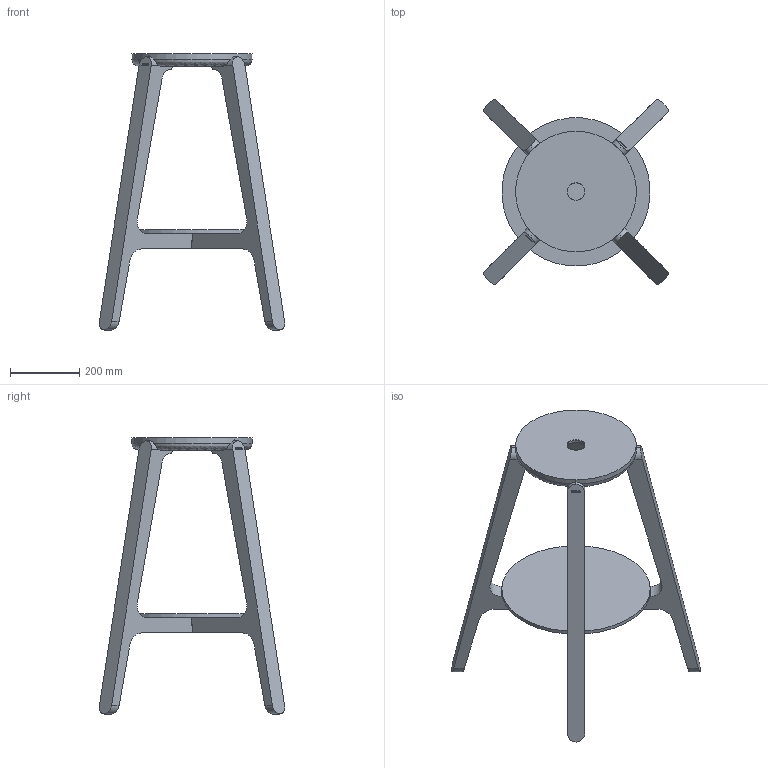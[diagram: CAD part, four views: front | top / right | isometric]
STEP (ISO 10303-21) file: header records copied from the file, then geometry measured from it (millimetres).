
FILE_DESCRIPTION(/* description */ (''),/* implementation_level */ '2;1');
FILE_NAME(/* name */ '8268_8269_8270_8271_HALONG',/* time_stamp */ '2025-03-31T10:23:35+02:00',/* author */ (''),/* organization */ (''),/* preprocessor_version */ 'ST-DEVELOPER v19.2',/* originating_system */ 'Rhino 8.17',/* authorisation */ '');
FILE_SCHEMA (('CONFIG_CONTROL_DESIGN'));
Length unit declared in the file: millimetre
Products named in the file (1): Document
Bounding box: 537.54 x 537.54 x 800 mm (x, y, z)
Volume: 12915678.9 mm3; surface area: 1338053.8 mm2
Topology: 16 solids, 16 shells, 359 faces, 916 edges, 608 vertices
Faces by surface type: plane 231, bspline 87, cylinder 41
Entity records: 13004 total; most frequent: CARTESIAN_POINT 6375, ORIENTED_EDGE 1832, EDGE_CURVE 916, B_SPLINE_CURVE_WITH_KNOTS 814, VERTEX_POINT 608, DIRECTION 399, EDGE_LOOP 392, ADVANCED_FACE 359
